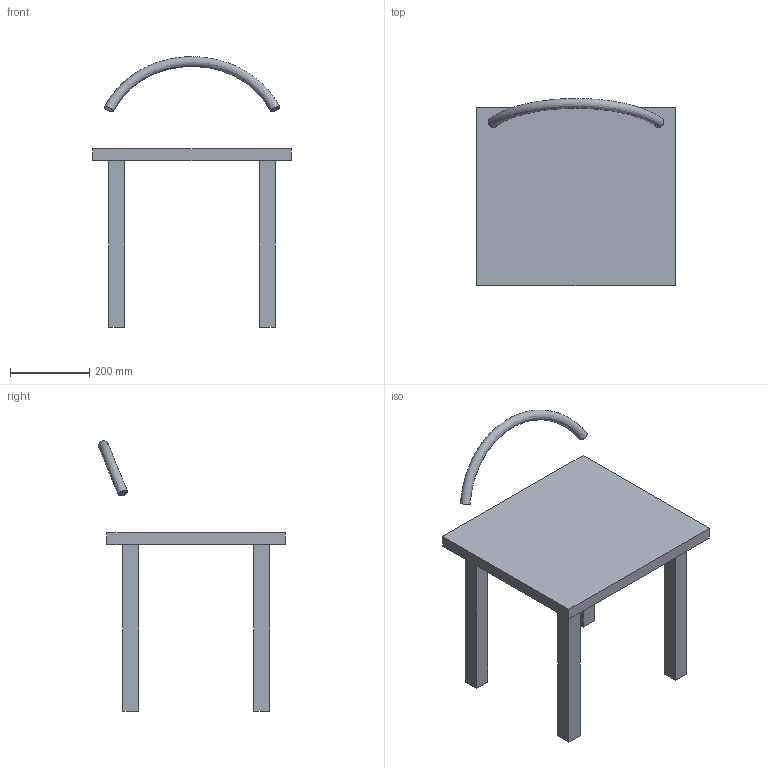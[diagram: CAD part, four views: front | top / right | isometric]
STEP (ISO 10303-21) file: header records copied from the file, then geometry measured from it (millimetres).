
FILE_DESCRIPTION(('Open CASCADE Model'),'2;1');
FILE_NAME('Open CASCADE Shape Model','2026-10-28T20:19:02',('Author'),( 'Open CASCADE'),'Open CASCADE STEP processor 7.8','Open CASCADE 7.8' ,'Unknown');
FILE_SCHEMA(('AUTOMOTIVE_DESIGN { 1 0 10303 214 1 1 1 1 }'));
Length unit declared in the file: millimetre
Products named in the file (7): Photo_derived_furniture_REVIEW; F001; F002; F003; F004; F005; F006
Assembly tree (6 placements, depth 2):
  Photo_derived_furniture_REVIEW
    F001
    F002
    F003
    F004
    F005
    F006
Bounding box: 500 x 471.18 x 682.25 mm (x, y, z)
Volume: 9693486.7 mm3; surface area: 830459.6 mm2
Topology: 6 solids, 6 shells, 33 faces, 63 edges, 42 vertices
Faces by surface type: plane 32, bspline 1
Entity records: 1933 total; most frequent: CARTESIAN_POINT 429, DIRECTION 262, LINE 184, VECTOR 184, ORIENTED_EDGE 126, PCURVE 126, DEFINITIONAL_REPRESENTATION 126, EDGE_CURVE 63
